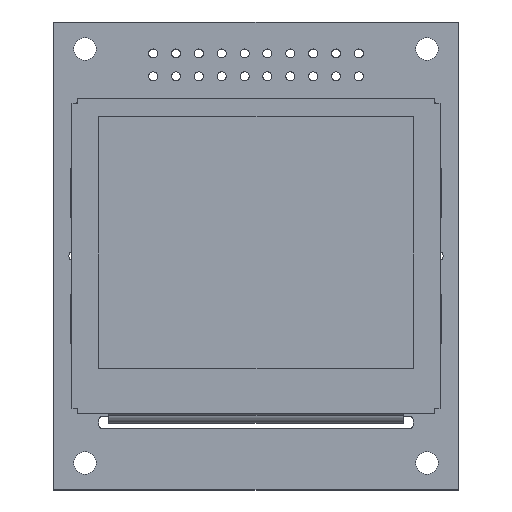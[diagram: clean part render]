
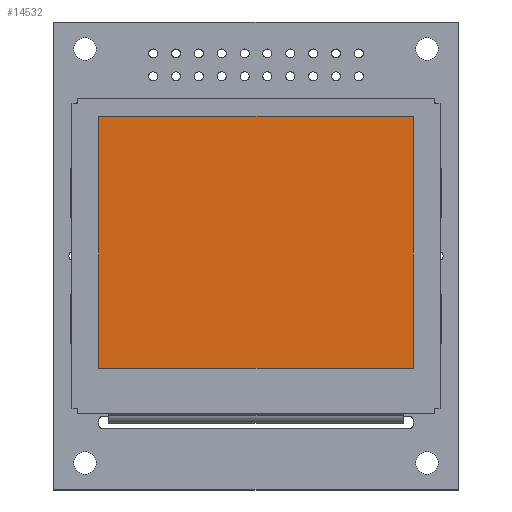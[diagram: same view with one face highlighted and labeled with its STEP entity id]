
A CAD part, top view. The second image highlights one B-rep face of the part: STEP entity #14532.
In plain terms, the highlighted planar face has unit normal (0, 0, 1).
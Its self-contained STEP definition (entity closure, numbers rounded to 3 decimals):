
#1337 = DIRECTION ( 'NONE',  ( 0., 0., 1. ) ) ;
#5034 = ORIENTED_EDGE ( 'NONE', *, *, #113096, .T. ) ;
#6279 = CARTESIAN_POINT ( 'NONE',  ( -19.45, 0., 0.55 ) ) ;
#10309 = LINE ( 'NONE', #19514, #139074 ) ;
#14532 = ADVANCED_FACE ( 'NONE', ( #98334 ), #56520, .T. ) ;
#19514 = CARTESIAN_POINT ( 'NONE',  ( 19.45, 0., 0.55 ) ) ;
#28663 = ORIENTED_EDGE ( 'NONE', *, *, #63068, .T. ) ;
#32265 = DIRECTION ( 'NONE',  ( 0., 1., 0. ) ) ;
#33214 = DIRECTION ( 'NONE',  ( 1., 0., 0. ) ) ;
#43395 = VERTEX_POINT ( 'NONE', #128327 ) ;
#50851 = LINE ( 'NONE', #6279, #90844 ) ;
#51866 = EDGE_LOOP ( 'NONE', ( #5034, #133471, #104379, #28663 ) ) ;
#51920 = DIRECTION ( 'NONE',  ( 1., 0., 0. ) ) ;
#56520 = PLANE ( 'NONE',  #79839 ) ;
#58084 = DIRECTION ( 'NONE',  ( -1., 0., 0. ) ) ;
#62969 = VERTEX_POINT ( 'NONE', #132027 ) ;
#63068 = EDGE_CURVE ( 'NONE', #128873, #43395, #72452, .T. ) ;
#71748 = CARTESIAN_POINT ( 'NONE',  ( 0., -14.5, 0.55 ) ) ;
#72452 = LINE ( 'NONE', #71748, #134282 ) ;
#78640 = CARTESIAN_POINT ( 'NONE',  ( 0., 16.5, 0.55 ) ) ;
#79839 = AXIS2_PLACEMENT_3D ( 'NONE', #110327, #1337, #33214 ) ;
#90844 = VECTOR ( 'NONE', #113894, 1000. ) ;
#91367 = LINE ( 'NONE', #78640, #106542 ) ;
#98334 = FACE_OUTER_BOUND ( 'NONE', #51866, .T. ) ;
#101005 = CARTESIAN_POINT ( 'NONE',  ( 19.45, 16.5, 0.55 ) ) ;
#103162 = CARTESIAN_POINT ( 'NONE',  ( -19.45, -14.5, 0.55 ) ) ;
#104379 = ORIENTED_EDGE ( 'NONE', *, *, #133495, .T. ) ;
#106542 = VECTOR ( 'NONE', #58084, 1000. ) ;
#110327 = CARTESIAN_POINT ( 'NONE',  ( 0., 0., 0.55 ) ) ;
#113096 = EDGE_CURVE ( 'NONE', #43395, #126386, #10309, .T. ) ;
#113894 = DIRECTION ( 'NONE',  ( 0., -1., 0. ) ) ;
#126386 = VERTEX_POINT ( 'NONE', #101005 ) ;
#128327 = CARTESIAN_POINT ( 'NONE',  ( 19.45, -14.5, 0.55 ) ) ;
#128873 = VERTEX_POINT ( 'NONE', #103162 ) ;
#131152 = EDGE_CURVE ( 'NONE', #126386, #62969, #91367, .T. ) ;
#132027 = CARTESIAN_POINT ( 'NONE',  ( -19.45, 16.5, 0.55 ) ) ;
#133471 = ORIENTED_EDGE ( 'NONE', *, *, #131152, .T. ) ;
#133495 = EDGE_CURVE ( 'NONE', #62969, #128873, #50851, .T. ) ;
#134282 = VECTOR ( 'NONE', #51920, 1000. ) ;
#139074 = VECTOR ( 'NONE', #32265, 1000. ) ;
